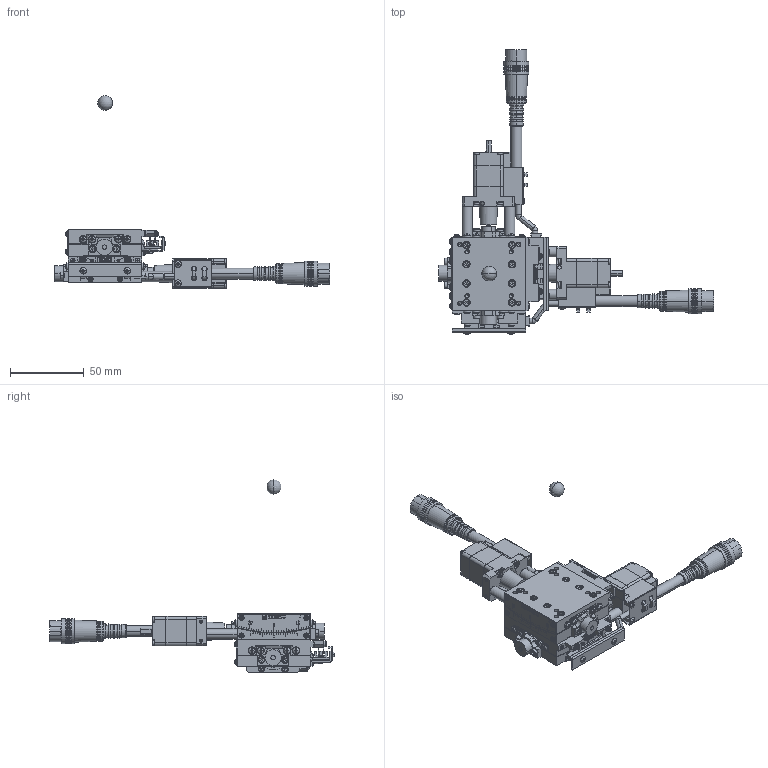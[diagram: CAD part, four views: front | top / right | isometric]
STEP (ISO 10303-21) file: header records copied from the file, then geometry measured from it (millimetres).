
FILE_DESCRIPTION( (''), '2;1');
FILE_NAME ('SA05A-R2BG01-RRR.stp','2022-01-24T17:33:07',(''),(''),'spGate 17.5.5','','');
FILE_SCHEMA (('AUTOMOTIVE_DESIGN'));
Length unit declared in the file: millimetre
Products named in the file (9): Assembly; SA05A-R2BG01-RRR-prt0; SA05A-R2BG01-RRR-prt1; SA05A-R2BG01-RRR-prt2; SA05A-R2BG01-RRR-prt3; SA05A-R2BG01-RRR-prt4; SA05A-R2BG01-RRR-prt5; SA05A-R2BG01-RRR-prt6; SA05A-R2BG01-RRR-prt7
Assembly tree (8 placements, depth 2):
  Assembly
    SA05A-R2BG01-RRR-prt0
    SA05A-R2BG01-RRR-prt1
    SA05A-R2BG01-RRR-prt2
    SA05A-R2BG01-RRR-prt3
    SA05A-R2BG01-RRR-prt4
    SA05A-R2BG01-RRR-prt5
    SA05A-R2BG01-RRR-prt6
    SA05A-R2BG01-RRR-prt7
Bounding box: 187 x 193.68 x 131 mm (x, y, z)
Volume: 153295 mm3; surface area: 76295.8 mm2
Topology: 8 solids, 18 shells, 4555 faces, 11390 edges, 7065 vertices
Faces by surface type: plane 2930, cylinder 907, bspline 620, sphere 98
Entity records: 231635 total; most frequent: CARTESIAN_POINT 35271, ORIENTED_EDGE 22468, DIRECTION 20998, COLOUR_RGB 15797, PRESENTATION_STYLE_ASSIGNMENT 15797, STYLED_ITEM 15797, EDGE_CURVE 11234, DRAUGHTING_PRE_DEFINED_CURVE_FONT 11234
